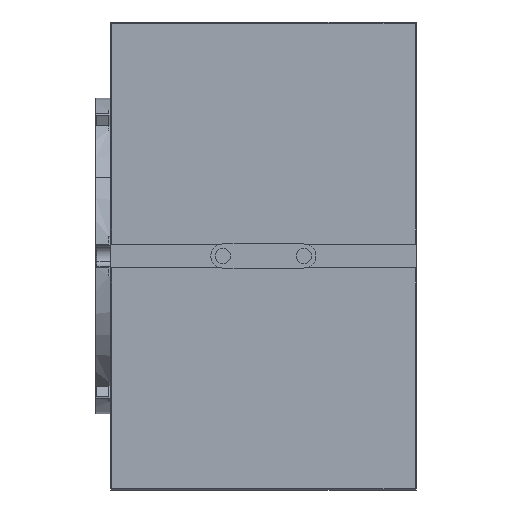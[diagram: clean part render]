
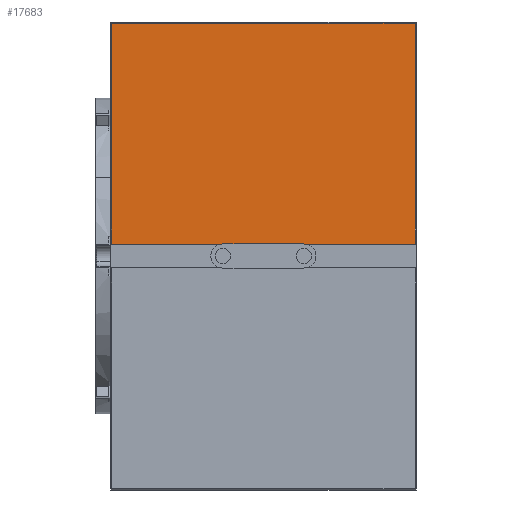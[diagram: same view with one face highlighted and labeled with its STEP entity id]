
A CAD part, front view. The second image highlights one B-rep face of the part: STEP entity #17683.
In plain terms, the highlighted planar face has unit normal (0, -1, 0).
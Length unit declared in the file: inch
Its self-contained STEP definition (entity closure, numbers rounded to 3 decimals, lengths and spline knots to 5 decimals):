
#1838 = EDGE_CURVE ( 'NONE', #12933, #5729, #10591, .T. ) ;
#2526 = CARTESIAN_POINT ( 'NONE',  ( 3.97, -16.16945, 19.48085 ) ) ;
#2827 = VECTOR ( 'NONE', #52812, 39.37008 ) ;
#5729 = VERTEX_POINT ( 'NONE', #2526 ) ;
#7188 = CARTESIAN_POINT ( 'NONE',  ( -3.97, -16.16945, 25.26335 ) ) ;
#9471 = LINE ( 'NONE', #32564, #21964 ) ;
#10591 = LINE ( 'NONE', #74033, #49198 ) ;
#12933 = VERTEX_POINT ( 'NONE', #69036 ) ;
#17683 = ADVANCED_FACE ( 'NONE', ( #66141 ), #66523, .T. ) ;
#17690 = EDGE_CURVE ( 'NONE', #5729, #23518, #9471, .T. ) ;
#19414 = VECTOR ( 'NONE', #49175, 39.37008 ) ;
#21964 = VECTOR ( 'NONE', #61970, 39.37008 ) ;
#23518 = VERTEX_POINT ( 'NONE', #57161 ) ;
#25385 = CARTESIAN_POINT ( 'NONE',  ( 4., -16.16945, 25.26335 ) ) ;
#27051 = ORIENTED_EDGE ( 'NONE', *, *, #37268, .T. ) ;
#28240 = EDGE_CURVE ( 'NONE', #23518, #43112, #60449, .T. ) ;
#29437 = CARTESIAN_POINT ( 'NONE',  ( -3.97, -16.16945, 25.29335 ) ) ;
#32296 = ORIENTED_EDGE ( 'NONE', *, *, #28240, .T. ) ;
#32564 = CARTESIAN_POINT ( 'NONE',  ( 3.97, -16.16945, 25.29335 ) ) ;
#36251 = LINE ( 'NONE', #29437, #2827 ) ;
#37268 = EDGE_CURVE ( 'NONE', #43112, #12933, #36251, .T. ) ;
#37868 = DIRECTION ( 'NONE',  ( 0., -1., 0. ) ) ;
#43112 = VERTEX_POINT ( 'NONE', #7188 ) ;
#48535 = AXIS2_PLACEMENT_3D ( 'NONE', #54827, #37868, #49579 ) ;
#49175 = DIRECTION ( 'NONE',  ( -1., 0., 0. ) ) ;
#49198 = VECTOR ( 'NONE', #68356, 39.37008 ) ;
#49579 = DIRECTION ( 'NONE',  ( -1., 0., 0. ) ) ;
#52812 = DIRECTION ( 'NONE',  ( 0., 0., -1. ) ) ;
#54479 = EDGE_LOOP ( 'NONE', ( #70023, #71976, #32296, #27051 ) ) ;
#54827 = CARTESIAN_POINT ( 'NONE',  ( 4., -16.16945, 25.29335 ) ) ;
#57161 = CARTESIAN_POINT ( 'NONE',  ( 3.97, -16.16945, 25.26335 ) ) ;
#60449 = LINE ( 'NONE', #25385, #19414 ) ;
#61970 = DIRECTION ( 'NONE',  ( 0., 0., 1. ) ) ;
#66141 = FACE_OUTER_BOUND ( 'NONE', #54479, .T. ) ;
#66523 = PLANE ( 'NONE',  #48535 ) ;
#68356 = DIRECTION ( 'NONE',  ( 1., 0., 0. ) ) ;
#69036 = CARTESIAN_POINT ( 'NONE',  ( -3.97, -16.16945, 19.48085 ) ) ;
#70023 = ORIENTED_EDGE ( 'NONE', *, *, #1838, .T. ) ;
#71976 = ORIENTED_EDGE ( 'NONE', *, *, #17690, .T. ) ;
#74033 = CARTESIAN_POINT ( 'NONE',  ( -4.00004, -16.16945, 19.48085 ) ) ;
